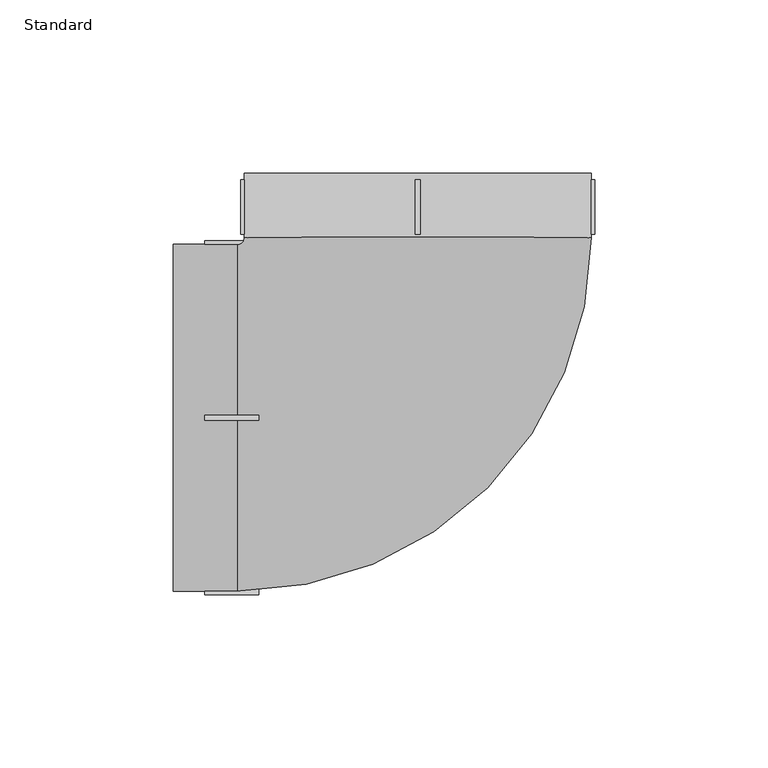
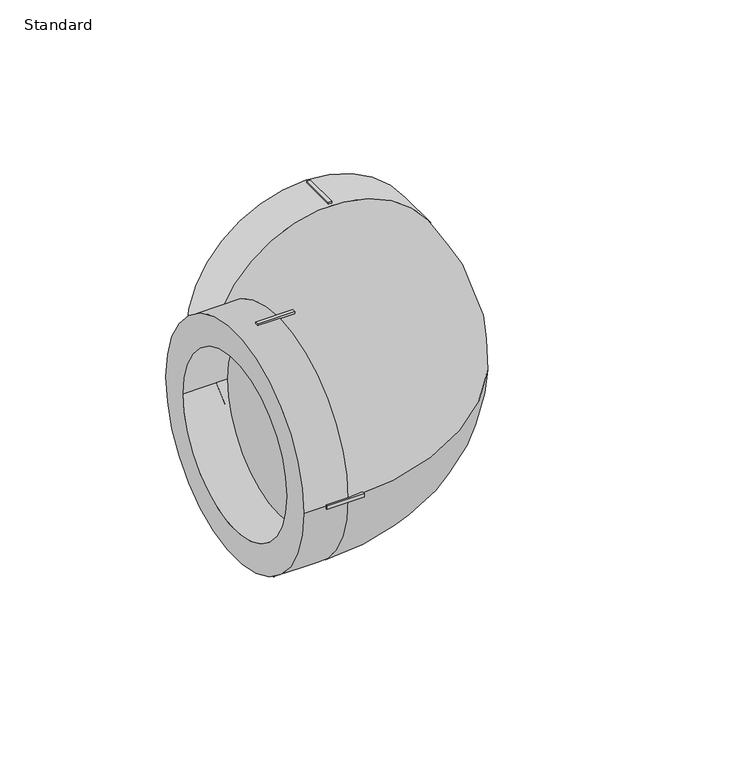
"""IFC4 building model written with IfcOpenShell, lengths in millimetres: pipe fitting geometry, EGB_VASEN_ PPR_Codo 90 WXR200_Codo 45 WXR220  : Standard."""

import ifcopenshell
import ifcopenshell.guid

model = None  # the IFC model being written
_history = None  # IfcOwnerHistory: only IFC2X3 demands one
_inside = {}  # id of a spatial element -> (the spatial element, [elements in it])
_under = {}  # id of a project, library or spatial element -> (it, [spatial elements below it])
_declared = {}  # id of a project -> (the project, [libraries it declares])
_typed = {}  # id of a type object -> (the type object, [elements of that type])
_made_of = {}  # id of a material, layer set ... -> (it, [elements and type objects made of it])


def new_model(schema):
    """Start an empty IFC model of exactly this schema.

    Asked for "IFC4X3", IfcOpenShell would pick the latest addendum, in which some entities
    have other attributes; the version numbers below select the first issue.
    IFC2X3 requires an IfcOwnerHistory on every rooted entity: one is made here for all.
    """
    global model, _history
    if schema == "IFC4X3":
        model = ifcopenshell.file(schema_version=(4, 3, 0, 0))
    else:
        model = ifcopenshell.file(schema=schema)
    _inside.clear()
    _under.clear()
    _declared.clear()
    _typed.clear()
    _made_of.clear()
    _history = None
    if model.schema == "IFC2X3":
        org = make("IfcOrganization", Name="unknown")
        user = make(
            "IfcPersonAndOrganization",
            ThePerson=make("IfcPerson", FamilyName="unknown"),
            TheOrganization=org,
        )
        app = make(
            "IfcApplication",
            ApplicationDeveloper=org,
            Version="unknown",
            ApplicationFullName="unknown",
            ApplicationIdentifier="unknown",
        )
        _history = make(
            "IfcOwnerHistory",
            OwningUser=user,
            OwningApplication=app,
            ChangeAction="ADDED",
            CreationDate=0,
        )
    return model


def make(cls, **values):
    """One entity of the class cls with the attributes given. An attribute that is None is left unset."""
    return model.create_entity(
        cls, **{name: value for name, value in values.items() if value is not None}
    )


def rooted(cls, **values):
    """An entity with a GlobalId (a new one), such as an element, a storey or a relation."""
    return make(cls, GlobalId=ifcopenshell.guid.new(), OwnerHistory=_history, **values)


def si_unit(unit_type, name, prefix=None):
    """IfcSIUnit, for example si_unit("LENGTHUNIT", "METRE", prefix="MILLI")."""
    return make("IfcSIUnit", UnitType=unit_type, Prefix=prefix, Name=name)


def assignment(units):
    """IfcUnitAssignment: the units of a project."""
    return None if units is None else make("IfcUnitAssignment", Units=units)


def point(xyz):
    """IfcCartesianPoint."""
    return None if xyz is None else make("IfcCartesianPoint", Coordinates=xyz)


def direction(xyz):
    """IfcDirection."""
    return None if xyz is None else make("IfcDirection", DirectionRatios=xyz)


def frame(location, z_axis=None, x_axis=None):
    """IfcAxis2Placement3D, a coordinate frame: its origin and axes. An axis left out is left unset."""
    return make(
        "IfcAxis2Placement3D",
        Location=point(location),
        Axis=direction(z_axis),
        RefDirection=direction(x_axis),
    )


def origin():
    """The frame at (0, 0, 0) with its axes left unset."""
    return frame((0.0, 0.0, 0.0))


def place(relative_to, where):
    """IfcLocalPlacement: puts the frame where relative to a parent placement (None: the world)."""
    return make(
        "IfcLocalPlacement", PlacementRelTo=relative_to, RelativePlacement=where
    )


def context(
    kind, dimensions, precision=None, world=None, true_north=None, identifier=None
):
    """IfcGeometricRepresentationContext, for example the 3D "Model" context."""
    return make(
        "IfcGeometricRepresentationContext",
        ContextIdentifier=identifier,
        ContextType=kind,
        CoordinateSpaceDimension=dimensions,
        Precision=precision,
        WorldCoordinateSystem=world,
        TrueNorth=true_north,
    )


def project(units=None, contexts=None):
    """IfcProject with its units and contexts."""
    return rooted(
        "IfcProject",
        Name="project",
        RepresentationContexts=contexts,
        UnitsInContext=assignment(units),
    )


def spatial(cls, under=None, at=None, **own):
    """A site, building, storey or space (cls), placed at a placement, below another one or the project."""
    s = rooted(cls, ObjectPlacement=at, **own)
    if under is not None:
        _under.setdefault(under.id(), (under, []))[1].append(s)
    return s


def polyline(points):
    """IfcPolyline through the points."""
    return make("IfcPolyline", Points=[point(p) for p in points])


def circle_curve(where, radius):
    """IfcCircle in the frame where."""
    return make("IfcCircle", Position=where, Radius=radius)


def ellipse_curve(where, semi_axis1, semi_axis2):
    """IfcEllipse in the frame where."""
    return make(
        "IfcEllipse", Position=where, SemiAxis1=semi_axis1, SemiAxis2=semi_axis2
    )


def trimmed(basis, trim1, trim2, sense, master):
    """IfcTrimmedCurve: the piece of a basis curve between two trims."""
    return make(
        "IfcTrimmedCurve",
        BasisCurve=basis,
        Trim1=trim1,
        Trim2=trim2,
        SenseAgreement=sense,
        MasterRepresentation=master,
    )


def outline(outer, holes=None, kind="AREA"):
    """IfcArbitraryClosedProfileDef: a profile drawn as a closed curve; with holes, ...WithVoids."""
    if holes is None:
        return make("IfcArbitraryClosedProfileDef", ProfileType=kind, OuterCurve=outer)
    return make(
        "IfcArbitraryProfileDefWithVoids",
        ProfileType=kind,
        OuterCurve=outer,
        InnerCurves=holes,
    )


def extrude(swept, where, along, depth):
    """IfcExtrudedAreaSolid: the profile swept, set in the frame where, extruded along a direction by depth."""
    return make(
        "IfcExtrudedAreaSolid",
        SweptArea=swept,
        Position=where,
        ExtrudedDirection=direction(along),
        Depth=depth,
    )


def shape(context_of_items, identifier, shape_type, items):
    """IfcShapeRepresentation: the items that make up one representation, for example the "Body"."""
    return make(
        "IfcShapeRepresentation",
        ContextOfItems=context_of_items,
        RepresentationIdentifier=identifier,
        RepresentationType=shape_type,
        Items=items,
    )


def source(mapping_origin, context_of_items, identifier, shape_type, items):
    """IfcRepresentationMap: a shape defined once, which mapped items show again and again."""
    return make(
        "IfcRepresentationMap",
        MappingOrigin=mapping_origin,
        MappedRepresentation=shape(context_of_items, identifier, shape_type, items),
    )


def transform(
    local_origin,
    x_axis=None,
    y_axis=None,
    z_axis=None,
    scale=None,
    scale2=None,
    scale3=None,
    uniform=True,
):
    """IfcCartesianTransformationOperator3D, or its non-uniform kind. x_axis, y_axis, z_axis: its Axis1, 2, 3."""
    if uniform:
        return make(
            "IfcCartesianTransformationOperator3D",
            Axis1=direction(x_axis),
            Axis2=direction(y_axis),
            LocalOrigin=point(local_origin),
            Scale=scale,
            Axis3=direction(z_axis),
        )
    return make(
        "IfcCartesianTransformationOperator3DnonUniform",
        Axis1=direction(x_axis),
        Axis2=direction(y_axis),
        LocalOrigin=point(local_origin),
        Scale=scale,
        Axis3=direction(z_axis),
        Scale2=scale2,
        Scale3=scale3,
    )


def mapped(mapping_source, mapping_target):
    """IfcMappedItem: shows the shape of a source again, moved by a transform."""
    return make(
        "IfcMappedItem", MappingSource=mapping_source, MappingTarget=mapping_target
    )


def made_of(thing, what):
    """Note that an element or type object is made of a material, layer set ...; save() writes the relation."""
    if what is not None:
        _made_of.setdefault(what.id(), (what, []))[1].append(thing)
    return thing


def element(
    cls,
    number,
    at=None,
    inside=None,
    cuts=None,
    type_object=None,
    material=None,
    context=None,
    identifier="Body",
    shape_type=None,
    held_by="IfcProductDefinitionShape",
    body=None,
    shapes=None,
    **own,
):
    """One element of the class cls, such as IfcWall. Its Tag is "e" and its number.

    at: its placement. inside: the storey or other place that contains it. cuts: it is an
    opening in that element (IfcRelVoidsElement). A single representation is given by context,
    identifier, shape_type and body (its items); several are given by shapes. held_by: the class
    of the entity that holds the representations. save() writes the other relations.
    """
    e = rooted(cls, Tag="e%d" % number, ObjectPlacement=at, **own)
    if body is not None:
        shapes = [shape(context, identifier, shape_type, body)]
    if shapes is not None:
        e.Representation = make(held_by, Representations=shapes)
    if inside is not None:
        _inside.setdefault(inside.id(), (inside, []))[1].append(e)
    if cuts is not None:
        rooted(
            "IfcRelVoidsElement", RelatingBuildingElement=cuts, RelatedOpeningElement=e
        )
    if type_object is not None:
        _typed.setdefault(type_object.id(), (type_object, []))[1].append(e)
    return made_of(e, material)


def aggregate(whole, parts):
    """IfcRelAggregates: a whole, such as a stair, and the parts it consists of."""
    return rooted("IfcRelAggregates", RelatingObject=whole, RelatedObjects=parts)


def save(model, path):
    """Write the relations noted so far, then the file.

    IfcRelAggregates (storeys below a building ...), IfcRelContainedInSpatialStructure (elements
    in a storey), IfcRelDefinesByType, IfcRelAssociatesMaterial and IfcRelDeclares: one each for
    every whole, place, type object, material and project.
    """
    for whole, parts in _under.values():
        aggregate(whole, parts)
    for where, things in _inside.values():
        rooted(
            "IfcRelContainedInSpatialStructure",
            RelatedElements=things,
            RelatingStructure=where,
        )
    for kind, things in _typed.values():
        rooted("IfcRelDefinesByType", RelatedObjects=things, RelatingType=kind)
    for what, things in _made_of.values():
        rooted("IfcRelAssociatesMaterial", RelatedObjects=things, RelatingMaterial=what)
    for by, libraries in _declared.values():
        rooted("IfcRelDeclares", RelatingContext=by, RelatedDefinitions=libraries)
    model.write(path)


def plane_surface(at):
    """IfcPlane: the flat surface through the origin of the frame at, square to its z axis."""
    return make("IfcPlane", Position=at)


def cylinder_surface(at, radius):
    """IfcCylindricalSurface: all points at the distance radius from the z axis of the frame at."""
    return make("IfcCylindricalSurface", Position=at, Radius=radius)


def revolved_surface(curve, axis_point, axis_direction):
    """IfcSurfaceOfRevolution: the curve turned about the line through axis_point along axis_direction."""
    return make(
        "IfcSurfaceOfRevolution",
        SweptCurve=make("IfcArbitraryOpenProfileDef", ProfileType="CURVE", Curve=curve),
        AxisPosition=make("IfcAxis1Placement", Location=point(axis_point), Axis=direction(axis_direction)),
    )


def advanced_brep(points, edges, surfaces, faces):
    """IfcAdvancedBrep: a solid bounded by faces that lie on surfaces and meet in shared edges.

    An edge is (start, end): straight between two places in points (the first is 0);
    or (start, end, curve); or (start, end, curve, False) where it runs against its curve.
    A face is (place in surfaces, loops), or (place, loops, False) where it looks against
    its surface's normal. A loop lists edges by number (the first is 1), with a minus sign
    where the edge is run from its end to its start. The first loop is the outer one.
    """
    corners = [point(p) for p in points]
    vertices = [make("IfcVertexPoint", VertexGeometry=c) for c in corners]
    made = []
    for start, end, *more in edges:
        made.append(
            make(
                "IfcEdgeCurve",
                EdgeStart=vertices[start],
                EdgeEnd=vertices[end],
                EdgeGeometry=more[0] if more else make("IfcPolyline", Points=[corners[start], corners[end]]),
                SameSense=more[1] if len(more) > 1 else True,
            )
        )
    hull = []
    for where, loops, *sense in faces:
        bounds = []
        for j, loop in enumerate(loops):
            ring = [make("IfcOrientedEdge", EdgeElement=made[abs(k) - 1], Orientation=k > 0) for k in loop]
            bounds.append(
                make(
                    "IfcFaceOuterBound" if j == 0 else "IfcFaceBound",
                    Bound=make("IfcEdgeLoop", EdgeList=ring),
                    Orientation=True,
                )
            )
        hull.append(make("IfcAdvancedFace", Bounds=bounds, FaceSurface=surfaces[where], SameSense=sense[0] if sense else True))
    return make("IfcAdvancedBrep", Outer=make("IfcClosedShell", CfsFaces=hull))


def standard_4a6fd1ad(model_context):
    return source(origin(), model_context, "Body", "SolidModel", [
        advanced_brep(
        [(-70.5, -50.0, 0.0), (-70.5, 50.0, 0.0), (-70.5, -37.5, 0.0), (-70.5, 37.5, 0.0), (-52.0, -50.0, 0.0), (-52.0, 50.0, 0.0), (-52.0, -37.5, 0.0), (-52.0, 37.5, 0.0), (37.5, 52.0, 0.0), (-37.5, 52.0, 0.0), (-50.0, 52.0, 0.0), (50.0, 52.0, 0.0), (0.0, 52.0, 50.0), (0.0, 52.0, -50.0), (50.0, 70.5, 0.0), (-50.0, 70.5, 0.0), (37.5, 70.5, 0.0), (-37.5, 70.5, 0.0)],
        [
            (0, 1, circle_curve(frame((-70.5, 0.0, 0.0), z_axis=(-1.0, 0.0, 0.0), x_axis=(0.0, 1.0, 0.0)), 50.0)),
            (1, 0, circle_curve(frame((-70.5, 0.0, 0.0), z_axis=(-1.0, 0.0, 0.0), x_axis=(0.0, 1.0, 0.0)), 50.0)),
            (2, 3, circle_curve(frame((-70.5, 0.0, 0.0), z_axis=(1.0, 0.0, 0.0), x_axis=(0.0, 1.0, 0.0)), 37.5)),
            (3, 2, circle_curve(frame((-70.5, 0.0, 0.0), z_axis=(1.0, 0.0, 0.0), x_axis=(0.0, 1.0, 0.0)), 37.5)),
            (0, 4),
            (4, 5, circle_curve(frame((-52.0, 0.0, 0.0), z_axis=(-1.0, 0.0, 0.0), x_axis=(0.0, 1.0, 0.0)), 50.0)),
            (5, 1),
            (5, 4, circle_curve(frame((-52.0, 0.0, 0.0), z_axis=(-1.0, 0.0, 0.0), x_axis=(0.0, 1.0, 0.0)), 50.0)),
            (2, 6),
            (6, 7, circle_curve(frame((-52.0, 0.0, 0.0), z_axis=(1.0, 0.0, 0.0), x_axis=(0.0, 1.0, 0.0)), 37.5)),
            (7, 3),
            (7, 6, circle_curve(frame((-52.0, 0.0, 0.0), z_axis=(1.0, 0.0, 0.0), x_axis=(0.0, 1.0, 0.0)), 37.5)),
            (8, 9, circle_curve(frame((0.0, 52.0, 0.0), z_axis=(0.0, 1.0, 0.0), x_axis=(-1.0, 0.0, 0.0)), 37.5)),
            (9, 8, circle_curve(frame((0.0, 52.0, 0.0), z_axis=(0.0, 1.0, 0.0), x_axis=(-1.0, 0.0, 0.0)), 37.5)),
            (10, 5, circle_curve(frame((-52.0, 52.0, 0.0), z_axis=(0.0, 0.0, -1.0), x_axis=(0.0, -1.0, 0.0)), 2.0)),
            (4, 11, circle_curve(frame((-52.0, 52.0, 0.0), z_axis=(0.0, 0.0, 1.0), x_axis=(0.0, -1.0, 0.0)), 102.0)),
            (11, 12, circle_curve(frame((0.0, 52.0, 0.0), z_axis=(0.0, -1.0, 0.0), x_axis=(-1.0, 0.0, 0.0)), 50.0)),
            (12, 10, circle_curve(frame((0.0, 52.0, 0.0), z_axis=(0.0, -1.0, 0.0), x_axis=(-1.0, 0.0, 0.0)), 50.0)),
            (10, 13, circle_curve(frame((0.0, 52.0, 0.0), z_axis=(0.0, -1.0, 0.0), x_axis=(-1.0, 0.0, 0.0)), 50.0)),
            (13, 11, circle_curve(frame((0.0, 52.0, 0.0), z_axis=(0.0, -1.0, 0.0), x_axis=(-1.0, 0.0, 0.0)), 50.0)),
            (14, 15, circle_curve(frame((0.0, 70.5, 0.0), z_axis=(0.0, 1.0, 0.0), x_axis=(-1.0, 0.0, 0.0)), 50.0)),
            (15, 14, circle_curve(frame((0.0, 70.5, 0.0), z_axis=(0.0, 1.0, 0.0), x_axis=(-1.0, 0.0, 0.0)), 50.0)),
            (16, 17, circle_curve(frame((0.0, 70.5, 0.0), z_axis=(0.0, -1.0, 0.0), x_axis=(-1.0, 0.0, 0.0)), 37.5)),
            (17, 16, circle_curve(frame((0.0, 70.5, 0.0), z_axis=(0.0, -1.0, 0.0), x_axis=(-1.0, 0.0, 0.0)), 37.5)),
            (15, 10),
            (11, 14),
            (17, 9),
            (8, 16),
        ],
        [
            plane_surface(frame((-70.5, 0.0, 0.0), z_axis=(-1.0, 0.0, 0.0), x_axis=(0.0, 0.0, 1.0))),
            cylinder_surface(frame((-70.5, 0.0, 0.0), z_axis=(-1.0, 0.0, 0.0), x_axis=(0.0, 1.0, 0.0)), 50.0),
            revolved_surface(polyline([(-52.0, 37.5, 0.0), (-70.5, 37.5, 0.0)]), (-70.5, 0.0, 0.0), (1.0, 0.0, 0.0)),
            plane_surface(frame((-52.0, 0.0, 0.0), z_axis=(-1.0, 0.0, 0.0), x_axis=(0.0, 0.0, 1.0))),
            plane_surface(frame((0.0, 52.0, 0.0), z_axis=(0.0, 1.0, 0.0), x_axis=(0.0, 0.0, 1.0))),
            revolved_surface(trimmed(ellipse_curve(frame((-52.0, 0.0, 0.0), z_axis=(-1.0, 0.0, 0.0), x_axis=(0.0, 1.0, 0.0)), 50.0, 50.0), [point((-52.0, -50.0, 0.0))], [point((-52.0, 50.0, 0.0))], True, "CARTESIAN"), (-52.0, 52.0, 0.0), (0.0, 0.0, 1.0)),
            revolved_surface(trimmed(ellipse_curve(frame((-52.0, 0.0, 0.0), z_axis=(-1.0, 0.0, 0.0), x_axis=(0.0, 1.0, 0.0)), 50.0, 50.0), [point((-52.0, 50.0, 0.0))], [point((-52.0, -50.0, 0.0))], True, "CARTESIAN"), (-52.0, 52.0, 0.0), (0.0, 0.0, 1.0)),
            plane_surface(frame((0.0, 70.5, 0.0), z_axis=(0.0, 1.0, 0.0), x_axis=(0.0, 0.0, 1.0))),
            cylinder_surface(frame((0.0, 52.0, 0.0), z_axis=(0.0, -1.0, 0.0), x_axis=(-1.0, 0.0, 0.0)), 50.0),
            revolved_surface(polyline([(-37.5, 70.5, 0.0), (-37.5, 52.0, 0.0)]), (0.0, 52.0, 0.0), (0.0, 1.0, 0.0)),
        ],
        [
            (0, [[1, 2], [3, 4]]),
            (1, [[-1, 5, 6, 7]]),
            (1, [[-2, -7, 8, -5]]),
            (2, [[-3, 9, 10, 11]]),
            (2, [[-4, -11, 12, -9]]),
            (3, [[-10, -12]]),
            (4, [[13, 14]]),
            (5, [[15, -6, 16, 17, 18]]),
            (6, [[-15, 19, 20, -16, -8]]),
            (7, [[21, 22], [23, 24]]),
            (8, [[-22, 25, -18, -17, 26]]),
            (8, [[-21, -26, -20, -19, -25]]),
            (9, [[-24, 27, -13, 28]]),
            (9, [[-23, -28, -14, -27]]),
        ],
    ),
        extrude(outline(polyline([(0.75, 53.0), (-0.75, 53.0), (-0.75, 68.6), (0.75, 68.6), (0.75, 53.0)])), frame((0.0, 0.0, 49.0), z_axis=(0.0, 0.0, 1.0), x_axis=(1.0, 0.0, 0.0)), (0.0, 0.0, 1.0), 2.0),
        extrude(outline(polyline([(-49.0, 53.0), (-51.0, 53.0), (-51.0, 68.6), (-49.0, 68.6), (-49.0, 53.0)])), frame((0.0, 0.0, -0.75), z_axis=(0.0, 0.0, 1.0), x_axis=(1.0, 0.0, 0.0)), (0.0, 0.0, 1.0), 1.5),
        extrude(outline(polyline([(51.0, 53.0), (49.0, 53.0), (49.0, 68.6), (51.0, 68.6), (51.0, 53.0)])), frame((0.0, 0.0, -0.75), z_axis=(0.0, 0.0, 1.0), x_axis=(1.0, 0.0, 0.0)), (0.0, 0.0, 1.0), 1.5),
        extrude(outline(polyline([(0.75, 53.0), (-0.75, 53.0), (-0.75, 68.6), (0.75, 68.6), (0.75, 53.0)])), frame((0.0, 0.0, -51.0), z_axis=(0.0, 0.0, 1.0), x_axis=(1.0, 0.0, 0.0)), (0.0, 0.0, 1.0), 2.0),
        extrude(outline(polyline([(-45.8, 0.75), (-45.8, -0.75), (-61.4, -0.75), (-61.4, 0.75), (-45.8, 0.75)])), frame((0.0, 0.0, 49.0), z_axis=(0.0, 0.0, 1.0), x_axis=(1.0, 0.0, 0.0)), (0.0, 0.0, 1.0), 2.0),
        extrude(outline(polyline([(-45.8, 0.75), (-45.8, -0.75), (-61.4, -0.75), (-61.4, 0.75), (-45.8, 0.75)])), frame((0.0, 0.0, -51.0), z_axis=(0.0, 0.0, 1.0), x_axis=(1.0, 0.0, 0.0)), (0.0, 0.0, 1.0), 2.0),
        extrude(outline(polyline([(-45.8, 51.0), (-45.8, 49.0), (-61.4, 49.0), (-61.4, 51.0), (-45.8, 51.0)])), frame((0.0, 0.0, -0.75), z_axis=(0.0, 0.0, 1.0), x_axis=(1.0, 0.0, 0.0)), (0.0, 0.0, 1.0), 1.5),
        extrude(outline(polyline([(-45.8, -49.0), (-45.8, -51.0), (-61.4, -51.0), (-61.4, -49.0), (-45.8, -49.0)])), frame((0.0, 0.0, -0.75), z_axis=(0.0, 0.0, 1.0), x_axis=(1.0, 0.0, 0.0)), (0.0, 0.0, 1.0), 1.5),
    ])


if __name__ == "__main__":
    model = new_model("IFC4")
    model_context = context("Model", 3, world=origin())
    ifc_project = project(units=[si_unit("LENGTHUNIT", "METRE", prefix="MILLI")], contexts=[model_context])
    site = spatial("IfcSite", under=ifc_project)
    building = spatial("IfcBuilding", under=site)
    placement = place(None, origin())
    standard_shape = standard_4a6fd1ad(model_context)
    element("IfcPipeFitting", 1, ObjectType="EGB_VASEN_ PPR_Codo 90 WXR200_Codo 45 WXR220  : Standard", at=placement, inside=building, context=model_context, shape_type="MappedRepresentation", body=[
        mapped(standard_shape, transform((0.0, 0.0, 0.0), x_axis=(1.0, 0.0, 0.0), y_axis=(0.0, 1.0, 0.0), z_axis=(0.0, 0.0, 1.0))),
    ])
    save(model, "model.ifc")
